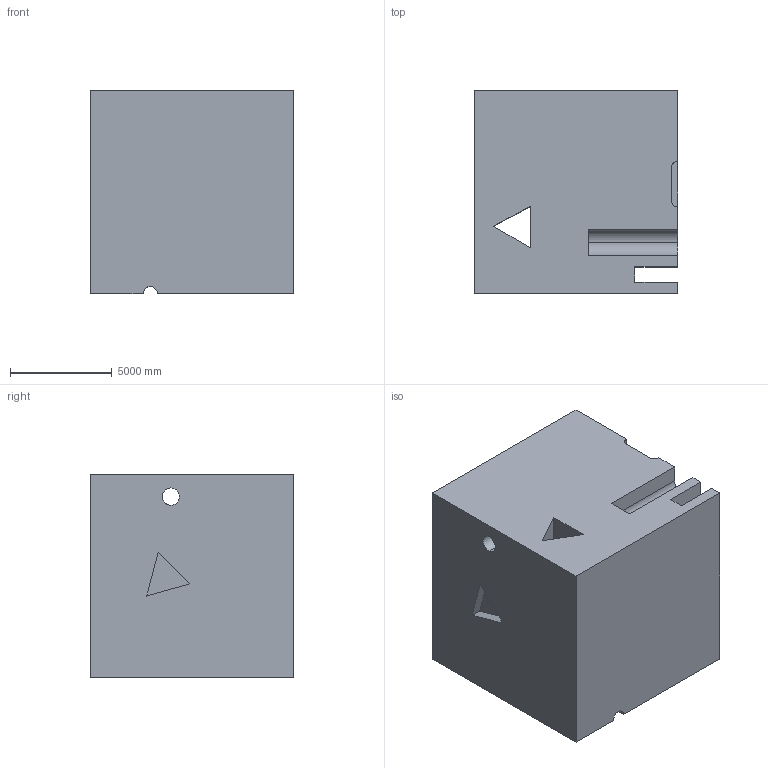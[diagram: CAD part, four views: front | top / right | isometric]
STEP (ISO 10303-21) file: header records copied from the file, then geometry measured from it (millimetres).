
FILE_DESCRIPTION (( 'STEP AP203' ), '1' );
FILE_NAME ('78.STEP', '2022-09-01T11:59:35', ( 'user' ), ( '' ), 'SwSTEP 2.0', 'SolidWorks 2021', '' );
FILE_SCHEMA (( 'CONFIG_CONTROL_DESIGN' ));
Length unit declared in the file: centimetre
Products named in the file (1): 78
Bounding box: 10000 x 10000 x 10000 mm (x, y, z)
Volume: 944457128015.6 mm3; surface area: 751449687.9 mm2
Topology: 1 solids, 1 shells, 34 faces, 99 edges, 66 vertices
Faces by surface type: plane 27, cylinder 7
Entity records: 1310 total; most frequent: CARTESIAN_POINT 321, ORIENTED_EDGE 198, DIRECTION 179, EDGE_CURVE 99, VECTOR 79, LINE 79, VERTEX_POINT 66, AXIS2_PLACEMENT_3D 50
